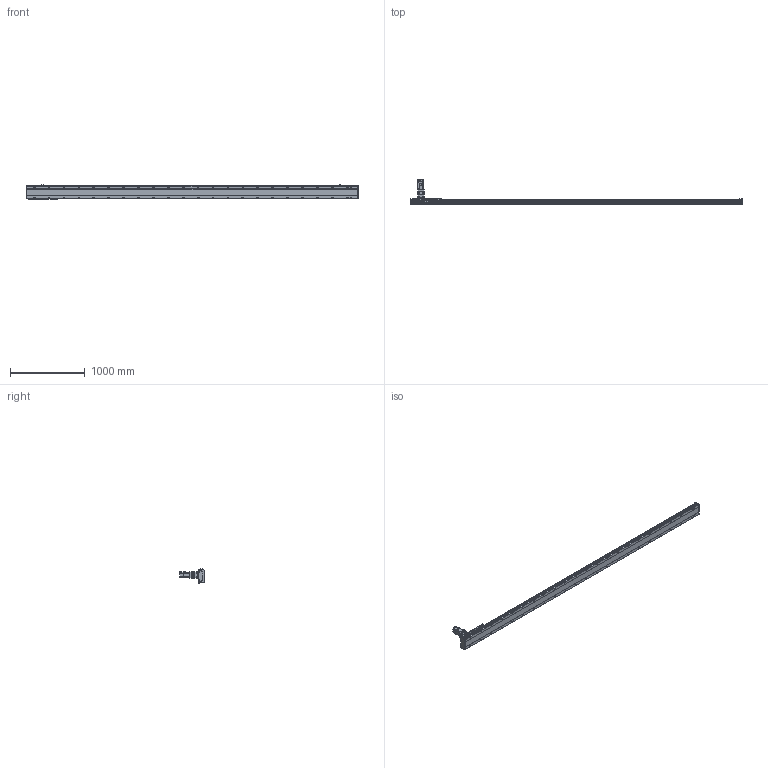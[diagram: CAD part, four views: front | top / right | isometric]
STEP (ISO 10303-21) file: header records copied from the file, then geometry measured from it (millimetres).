
FILE_DESCRIPTION(/* description */ ('STEP AP203'),/* implementation_level */ '2;1');
FILE_NAME(/* name */ 'SHS17A-L13-S4000-BC-T75-C1-N(0)',/* time_stamp */ '2023-03-27T08:58:56+02:00',/* author */ ('License CC BY-ND 4.0'),/* organization */ ('CADENAS'),/* preprocessor_version */ 'ST-DEVELOPER v19.3',/* originating_system */ 'PARTsolutions',/* authorisation */ ' ');
FILE_SCHEMA (('CONFIG_CONTROL_DESIGN'));
Length unit declared in the file: millimetre
Products named in the file (7): SHS17A-L13-S4000-BC-T75-C1-N(0); PSC140-sensor; SHS17A-S4000(0)_body2; T75-p1; SHS17A-S4000_body3; SHS17A-S4000-C1(0)_slider; SHS17A-S4000-C1(0)_body
Assembly tree (13 placements, depth 2):
  SHS17A-L13-S4000-BC-T75-C1-N(0)
    PSC140-sensor  x3
    SHS17A-S4000(0)_body2  x6
    T75-p1
    SHS17A-S4000_body3
    SHS17A-S4000-C1(0)_slider
    SHS17A-S4000-C1(0)_body
Bounding box: 4454 x 333.8 x 193.4 mm (x, y, z)
Volume: 30365146.2 mm3; surface area: 3480976.6 mm2
Topology: 13 solids, 13 shells, 2392 faces, 6106 edges, 3975 vertices
Faces by surface type: plane 1468, cylinder 821, cone 100, torus 3
Full cylindrical faces by diameter (mm): 2.8 x3, 4.134 x24, 4.5 x2, 4.6 x3, 4.917 x15, 5.5 x48, 6 x7, 6.5 x24, 6.647 x54, 6.8 x9, 8 x3, 8.5 x46, 10 x28, 11 x4, 14 x46, 22 x1, 24 x1, 24.2 x1, 28 x1, 28.2 x1, 28.8 x1, 29.8 x1, 48.542 x1, 68 x1, 70 x1, 78 x1, 80 x2
Entity records: 48682 total; most frequent: CARTESIAN_POINT 9778, DIRECTION 7873, ORIENTED_EDGE 7636, EDGE_CURVE 3818, AXIS2_PLACEMENT_3D 2816, VERTEX_POINT 2689, EDGE_LOOP 2285, FACE_BOUND 2285
